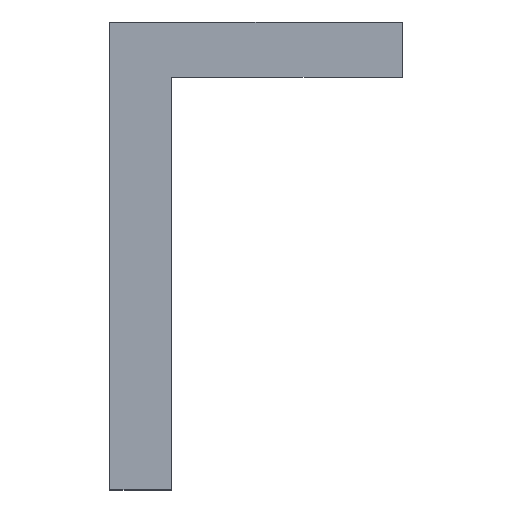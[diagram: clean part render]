
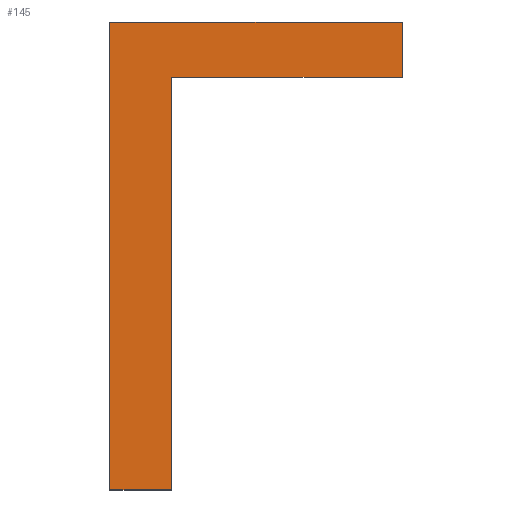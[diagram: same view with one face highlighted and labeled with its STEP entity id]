
A CAD part, top view. The second image highlights one B-rep face of the part: STEP entity #145.
In plain terms, the highlighted planar face has unit normal (0, 0, 1).
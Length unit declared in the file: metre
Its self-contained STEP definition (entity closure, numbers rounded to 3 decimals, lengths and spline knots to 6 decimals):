
#42=ORIENTED_EDGE('',*,*,#64,.T.);
#43=ORIENTED_EDGE('',*,*,#48,.T.);
#44=ORIENTED_EDGE('',*,*,#52,.T.);
#45=ORIENTED_EDGE('',*,*,#55,.T.);
#46=ORIENTED_EDGE('',*,*,#58,.T.);
#47=ORIENTED_EDGE('',*,*,#61,.T.);
#48=EDGE_CURVE('',#66,#67,#78,.T.);
#52=EDGE_CURVE('',#67,#70,#82,.F.);
#55=EDGE_CURVE('',#70,#72,#85,.F.);
#58=EDGE_CURVE('',#72,#74,#88,.F.);
#61=EDGE_CURVE('',#74,#76,#91,.F.);
#64=EDGE_CURVE('',#76,#66,#94,.T.);
#66=VERTEX_POINT('',#198);
#67=VERTEX_POINT('',#199);
#70=VERTEX_POINT('',#207);
#72=VERTEX_POINT('',#213);
#74=VERTEX_POINT('',#219);
#76=VERTEX_POINT('',#225);
#78=LINE('',#197,#96);
#82=LINE('',#206,#100);
#85=LINE('',#212,#103);
#88=LINE('',#218,#106);
#91=LINE('',#224,#109);
#94=LINE('',#230,#112);
#96=VECTOR('',#163,1.);
#100=VECTOR('',#169,1.);
#103=VECTOR('',#174,1.);
#106=VECTOR('',#179,1.);
#109=VECTOR('',#184,1.);
#112=VECTOR('',#189,1.);
#121=EDGE_LOOP('',(#42,#43,#44,#45,#46,#47));
#129=FACE_BOUND('',#121,.T.);
#137=PLANE('',#158);
#145=ADVANCED_FACE('',(#129),#137,.F.);
#158=AXIS2_PLACEMENT_3D('',#233,#193,#194);
#163=DIRECTION('',(0.,-1.,0.));
#169=DIRECTION('',(-1.,0.,0.));
#174=DIRECTION('',(0.,-1.,0.));
#179=DIRECTION('',(-1.,0.,0.));
#184=DIRECTION('',(0.,-1.,0.));
#189=DIRECTION('',(-1.,0.,0.));
#193=DIRECTION('',(0.,0.,-1.));
#194=DIRECTION('',(0.,-1.,0.));
#197=CARTESIAN_POINT('',(-0.041882,-0.00127,-0.03));
#198=CARTESIAN_POINT('',(-0.041882,-0.000861,-0.03));
#199=CARTESIAN_POINT('',(-0.041882,-0.001678,-0.03));
#206=CARTESIAN_POINT('',(-0.042436,-0.001678,-0.03));
#207=CARTESIAN_POINT('',(-0.041774,-0.001678,-0.03));
#212=CARTESIAN_POINT('',(-0.041774,-0.00127,-0.03));
#213=CARTESIAN_POINT('',(-0.041774,-0.000958,-0.03));
#218=CARTESIAN_POINT('',(-0.042436,-0.000958,-0.03));
#219=CARTESIAN_POINT('',(-0.041372,-0.000958,-0.03));
#224=CARTESIAN_POINT('',(-0.041372,-0.00127,-0.03));
#225=CARTESIAN_POINT('',(-0.041372,-0.000861,-0.03));
#230=CARTESIAN_POINT('',(-0.042436,-0.000861,-0.03));
#233=CARTESIAN_POINT('',(-0.042436,-0.00127,-0.03));
